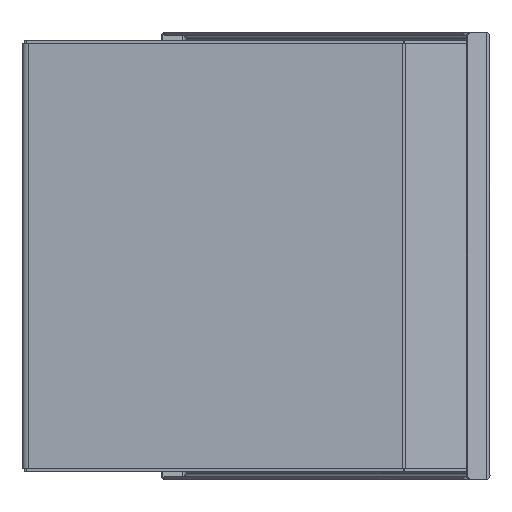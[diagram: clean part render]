
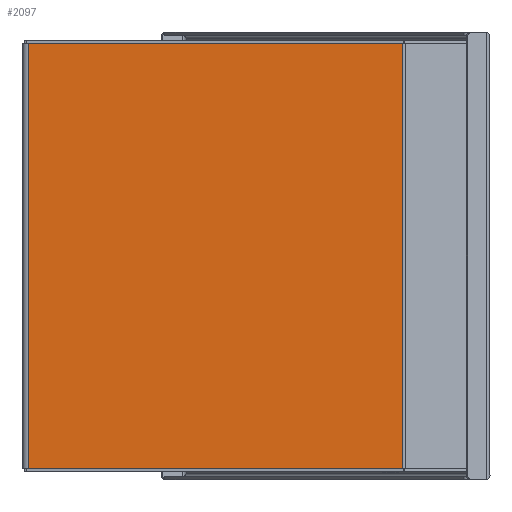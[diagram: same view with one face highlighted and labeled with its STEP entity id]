
A CAD part, left-side view. The second image highlights one B-rep face of the part: STEP entity #2097.
In plain terms, the highlighted planar face has unit normal (-1, 0, 0).
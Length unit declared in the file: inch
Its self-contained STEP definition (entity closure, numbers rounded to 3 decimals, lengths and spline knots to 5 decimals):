
#17=DIRECTION('',(0.,0.,1.));
#18=VECTOR('',#17,8.38);
#19=CARTESIAN_POINT('',(-5.345,2.3803,-4.19));
#20=LINE('',#19,#18);
#48=DIRECTION('',(0.,-1.,0.));
#49=VECTOR('',#48,7.36466);
#50=CARTESIAN_POINT('',(-5.345,2.3803,-4.19));
#51=LINE('',#50,#49);
#586=DIRECTION('',(0.,0.,-1.));
#587=VECTOR('',#586,8.38);
#588=CARTESIAN_POINT('',(-5.345,-4.98436,4.19));
#589=LINE('',#588,#587);
#608=DIRECTION('',(0.,1.,0.));
#609=VECTOR('',#608,7.36466);
#610=CARTESIAN_POINT('',(-5.345,-4.98436,4.19));
#611=LINE('',#610,#609);
#2070=CARTESIAN_POINT('',(-5.345,-4.98436,4.19));
#2071=CARTESIAN_POINT('',(-5.345,2.3803,4.19));
#2072=VERTEX_POINT('',#2070);
#2073=VERTEX_POINT('',#2071);
#2078=CARTESIAN_POINT('',(-5.345,2.3803,-4.19));
#2079=CARTESIAN_POINT('',(-5.345,-4.98436,-4.19));
#2080=VERTEX_POINT('',#2078);
#2081=VERTEX_POINT('',#2079);
#2082=CARTESIAN_POINT('',(-5.345,2.5003,-4.25));
#2083=DIRECTION('',(-1.,0.,0.));
#2084=DIRECTION('',(0.,-1.,0.));
#2085=AXIS2_PLACEMENT_3D('',#2082,#2083,#2084);
#2086=PLANE('',#2085);
#2088=ORIENTED_EDGE('',*,*,#2087,.T.);
#2090=ORIENTED_EDGE('',*,*,#2089,.F.);
#2092=ORIENTED_EDGE('',*,*,#2091,.T.);
#2094=ORIENTED_EDGE('',*,*,#2093,.F.);
#2095=EDGE_LOOP('',(#2088,#2090,#2092,#2094));
#2096=FACE_OUTER_BOUND('',#2095,.F.);
#2087=EDGE_CURVE('',#2080,#2073,#20,.T.);
#2089=EDGE_CURVE('',#2072,#2073,#611,.T.);
#2091=EDGE_CURVE('',#2072,#2081,#589,.T.);
#2093=EDGE_CURVE('',#2080,#2081,#51,.T.);
#2097=ADVANCED_FACE('',(#2096),#2086,.T.);
